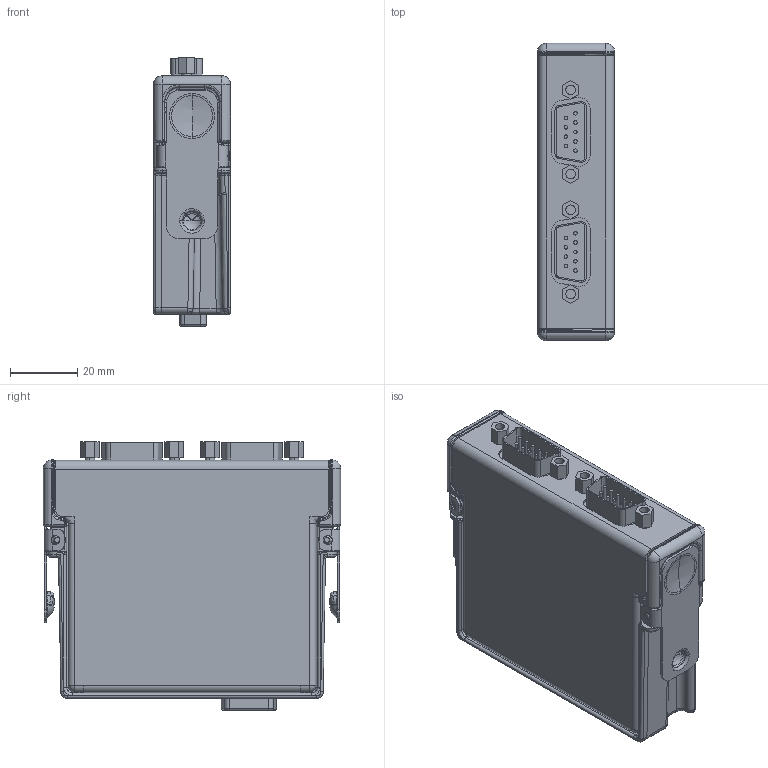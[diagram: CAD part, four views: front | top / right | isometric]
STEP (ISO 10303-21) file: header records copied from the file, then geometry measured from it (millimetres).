
FILE_DESCRIPTION((''),'2;1');
FILE_NAME('CART_CRIO_2X_DB9_LVL6','2007-01-24T',('chrisj'),(''),'PRO/ENGINEER BY PARAMETRIC TECHNOLOGY CORPORATION, 2006080','PRO/ENGINEER BY PARAMETRIC TECHNOLOGY CORPORATION, 2006080','');
FILE_SCHEMA(('AUTOMOTIVE_DESIGN_CC2 { 1 2 10303 214 -1 1 5 2 }'));
Products named in the file (1): CART_CRIO_2X_DB9_LVL6
Bounding box: 22.86 x 88.11 x 79.63 mm (x, y, z)
Volume: 41584.5 mm3; surface area: 48905.6 mm2
Topology: 15 solids, 15 shells, 1658 faces, 3929 edges, 2334 vertices
Faces by surface type: plane 580, cylinder 556, bspline 365, torus 60, cone 52, sphere 39, extrusion 6
Entity records: 67680 total; most frequent: CARTESIAN_POINT 32223, ORIENTED_EDGE 7714, DIRECTION 6659, EDGE_CURVE 3857, AXIS2_PLACEMENT_3D 2407, VERTEX_POINT 2372, VECTOR 1845, LINE 1839
